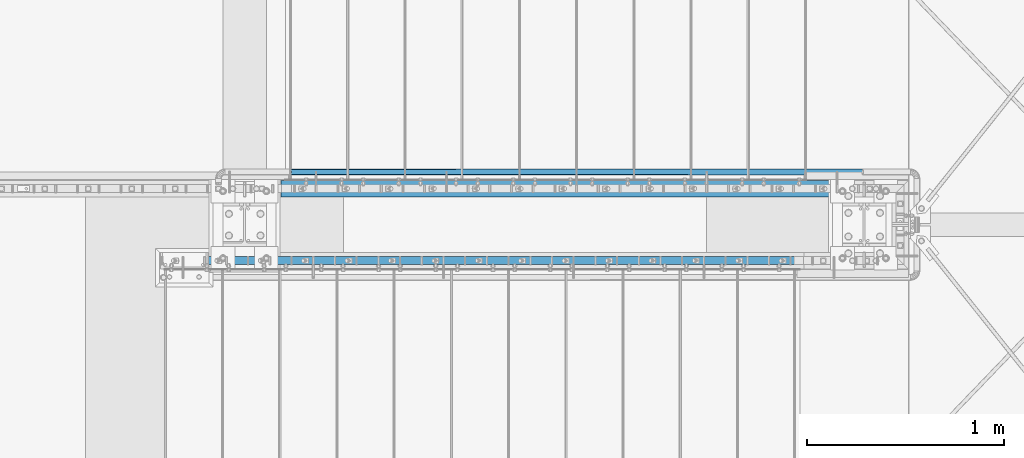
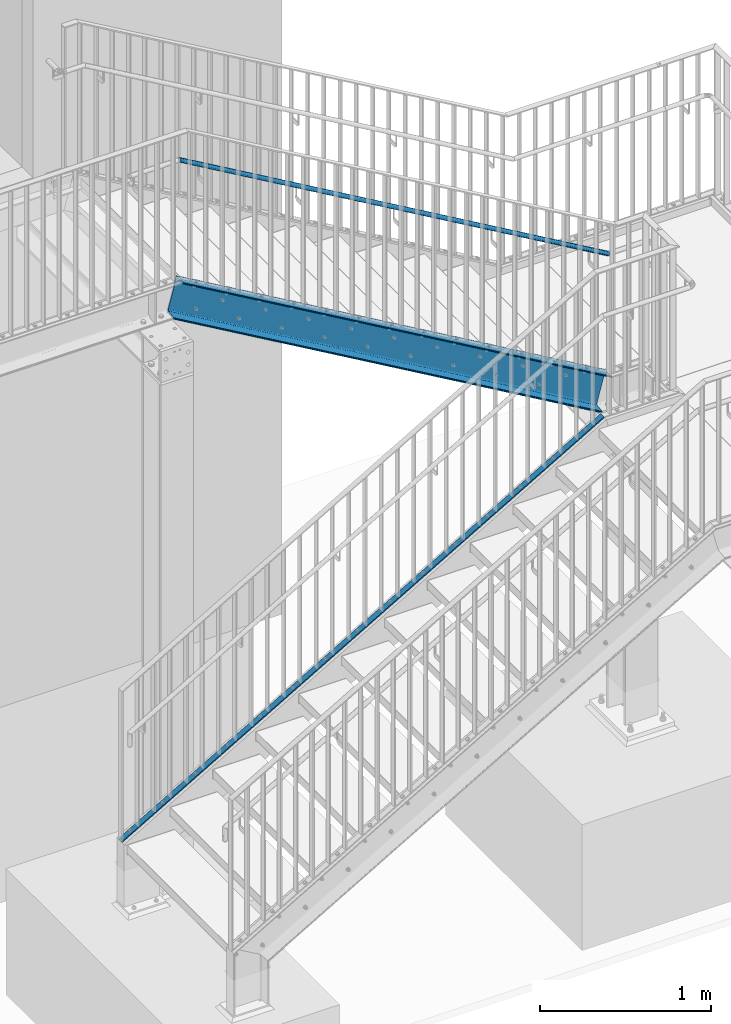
# One storey, part 14 of 145: 3 members, 46 openings.
"""IFC2X3 building model written with IfcOpenShell, lengths in millimetres."""

from ifc_helpers import new_model, entity, si_unit, converted_unit, frame, frame_2d, origin, origin_with_axes, origin_2d, place, context, project, spatial, rectangle, circle, hollow_circle, u_section, extrude, clip, halfspace, material, element, save


model = new_model("IFC2X3")

# Units and contexts
model_context = context("Model", 3, precision=1e-09, world=origin_with_axes())
ifc_project = project(units=[si_unit("LENGTHUNIT", "METRE", prefix="MILLI"), si_unit("AREAUNIT", "SQUARE_METRE"), si_unit("VOLUMEUNIT", "CUBIC_METRE"), converted_unit("PLANEANGLEUNIT", "DEGREE", entity("IfcPlaneAngleMeasure", 0.01745329), si_unit("PLANEANGLEUNIT", "RADIAN"), dimensions=[0, 0, 0, 0, 0, 0, 0])], contexts=[model_context])

# Site, building, storey
site_placement = place(None, origin_with_axes())
site = spatial("IfcSite", under=ifc_project, at=site_placement, Name="BZ1 Grund- und Mittelschule 85716 Unterschlei?heim", CompositionType="ELEMENT")
building_placement = place(site_placement, origin_with_axes())
building = spatial("IfcBuilding", under=site, at=building_placement, Name="Struktur 1", CompositionType="ELEMENT")
storey_placement = place(building_placement, origin_with_axes())
storey = spatial("IfcBuildingStorey", under=building, at=storey_placement, Name="Default Storey", CompositionType="ELEMENT", Elevation=0.0)

# Member, openings
ifc_material_1 = material(Name="S235JR")
member_1_placement = place(None, frame((20277.109208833, -1492.302, 1404.136092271), z_axis=(0.864466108, 0.0, -0.502691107), x_axis=(0.0, -1.0, 0.0)))
member_1 = element("IfcMember", 1, at=member_1_placement, inside=storey, material=ifc_material_1, Name="-", ObjectType="-", context=model_context, shape_type="Clipping", body=[
    clip(clip(extrude(u_section(Depth=240.0, FlangeWidth=85.0, WebThickness=9.5, FlangeThickness=13.0, FilletRadius=13.0, EdgeRadius=6.5, FlangeSlope=4.574, at=frame_2d((20.2, 0.0))), origin(), (0.0, 0.0, -1.0), 3710.756279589), halfspace(frame((-1492.302, 7293.475003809, -1566.270661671), z_axis=(0.0, -0.260320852, 0.965522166), x_axis=(-1.0, 0.0, 0.0)), True)), halfspace(frame((-1492.302, 6450.293706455, 1561.063264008), z_axis=(0.0, 0.260320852, -0.965522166), x_axis=(1.0, 0.0, 0.0)), True)),
])
opening_1_placement = place(member_1_placement, frame((-12.3, 58.965673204, -1972.692381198), z_axis=(1.0, 0.0, 0.0), x_axis=(0.0, 1.0, 0.0)))
element("IfcOpeningElement", 2, at=opening_1_placement, cuts=member_1, ObjectType="Opening", context=model_context, shape_type="SweptSolid", body=[
    extrude(circle(Radius=7.001, at=frame_2d((-6.05212722, -3.519340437), x_axis=(1.0, 0.0))), origin(), (0.0, 0.0, -1.0), 10.5),
])
opening_2_placement = place(member_1_placement, frame((-12.3, 58.965673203, -2979.093895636), z_axis=(1.0, 0.0, 0.0), x_axis=(0.0, 1.0, 0.0)))
element("IfcOpeningElement", 3, at=opening_2_placement, cuts=member_1, ObjectType="Opening", context=model_context, shape_type="SweptSolid", body=[
    extrude(circle(Radius=7.001, at=frame_2d((-6.05212722, -3.519340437), x_axis=(1.0, 0.0))), origin(), (0.0, 0.0, -1.0), 10.5),
])
opening_3_placement = place(member_1_placement, frame((20.2, -106.5, -1139.474690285), z_axis=(0.0, 1.0, 0.0), x_axis=(-1.0, 0.0, 0.0)))
element("IfcOpeningElement", 4, at=opening_3_placement, cuts=member_1, ObjectType="Opening", context=model_context, shape_type="SweptSolid", body=[
    extrude(circle(Radius=7.001, at=frame_2d((0.0, -7.001), x_axis=(1.0, 0.0))), origin(), (0.0, 0.0, -1.0), 14.0),
])
opening_4_placement = place(member_1_placement, frame((20.2, -106.5, -1393.967608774), z_axis=(0.0, 1.0, 0.0), x_axis=(-1.0, 0.0, 0.0)))
element("IfcOpeningElement", 5, at=opening_4_placement, cuts=member_1, ObjectType="Opening", context=model_context, shape_type="SweptSolid", body=[
    extrude(circle(Radius=7.001, at=frame_2d((0.0, -7.001), x_axis=(1.0, 0.0))), origin(), (0.0, 0.0, -1.0), 14.0),
])
opening_5_placement = place(member_1_placement, frame((-12.3, -31.518725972, -2823.489996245), z_axis=(1.0, 0.0, 0.0), x_axis=(0.0, 1.0, 0.0)))
element("IfcOpeningElement", 6, at=opening_5_placement, cuts=member_1, ObjectType="Opening", context=model_context, shape_type="SweptSolid", body=[
    extrude(circle(Radius=7.001, at=frame_2d((-6.05212722, -3.519340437), x_axis=(1.0, 0.0))), origin(), (0.0, 0.0, -1.0), 10.5),
])
opening_6_placement = place(member_1_placement, frame((20.2, -106.5, -2666.429875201), z_axis=(0.0, 1.0, 0.0), x_axis=(-1.0, 0.0, 0.0)))
element("IfcOpeningElement", 7, at=opening_6_placement, cuts=member_1, ObjectType="Opening", context=model_context, shape_type="SweptSolid", body=[
    extrude(circle(Radius=7.001, at=frame_2d((0.0, -7.001), x_axis=(1.0, 0.0))), origin(), (0.0, 0.0, -1.0), 14.0),
])
opening_7_placement = place(member_1_placement, frame((20.2, -106.5, -2411.938119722), z_axis=(0.0, 1.0, 0.0), x_axis=(-1.0, 0.0, 0.0)))
element("IfcOpeningElement", 8, at=opening_7_placement, cuts=member_1, ObjectType="Opening", context=model_context, shape_type="SweptSolid", body=[
    extrude(circle(Radius=7.001, at=frame_2d((0.0, -7.001), x_axis=(1.0, 0.0))), origin(), (0.0, 0.0, -1.0), 14.0),
])
opening_8_placement = place(member_1_placement, frame((20.2, -106.5, -1648.459945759), z_axis=(0.0, 1.0, 0.0), x_axis=(-1.0, 0.0, 0.0)))
element("IfcOpeningElement", 9, at=opening_8_placement, cuts=member_1, ObjectType="Opening", context=model_context, shape_type="SweptSolid", body=[
    extrude(circle(Radius=7.001, at=frame_2d((0.0, -7.001), x_axis=(1.0, 0.0))), origin(), (0.0, 0.0, -1.0), 14.0),
])
opening_9_placement = place(member_1_placement, frame((20.2, -106.5, -375.997097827), z_axis=(0.0, 1.0, 0.0), x_axis=(-1.0, 0.0, 0.0)))
element("IfcOpeningElement", 10, at=opening_9_placement, cuts=member_1, ObjectType="Opening", context=model_context, shape_type="SweptSolid", body=[
    extrude(circle(Radius=7.001, at=frame_2d((0.0, -7.001), x_axis=(1.0, 0.0))), origin(), (0.0, 0.0, -1.0), 14.0),
])
opening_10_placement = place(member_1_placement, frame((-12.3, -31.518725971, -810.686967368), z_axis=(1.0, 0.0, 0.0), x_axis=(0.0, 1.0, 0.0)))
element("IfcOpeningElement", 11, at=opening_10_placement, cuts=member_1, ObjectType="Opening", context=model_context, shape_type="SweptSolid", body=[
    extrude(circle(Radius=7.001, at=frame_2d((-6.05212722, -3.519340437), x_axis=(1.0, 0.0))), origin(), (0.0, 0.0, -1.0), 10.5),
])
opening_11_placement = place(member_1_placement, frame((-12.3, -31.518725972, -2488.022824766), z_axis=(1.0, 0.0, 0.0), x_axis=(0.0, 1.0, 0.0)))
element("IfcOpeningElement", 12, at=opening_11_placement, cuts=member_1, ObjectType="Opening", context=model_context, shape_type="SweptSolid", body=[
    extrude(circle(Radius=7.001, at=frame_2d((-6.05212722, -3.519340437), x_axis=(1.0, 0.0))), origin(), (0.0, 0.0, -1.0), 10.5),
])
opening_12_placement = place(member_1_placement, frame((-12.3, 58.965673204, -630.82369528), z_axis=(1.0, 0.0, 0.0), x_axis=(0.0, 1.0, 0.0)))
element("IfcOpeningElement", 13, at=opening_12_placement, cuts=member_1, ObjectType="Opening", context=model_context, shape_type="SweptSolid", body=[
    extrude(circle(Radius=7.001, at=frame_2d((-6.05212722, -3.519340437), x_axis=(1.0, 0.0))), origin(), (0.0, 0.0, -1.0), 10.5),
])
opening_13_placement = place(member_1_placement, frame((-12.3, 58.965673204, -2643.626724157), z_axis=(1.0, 0.0, 0.0), x_axis=(0.0, 1.0, 0.0)))
element("IfcOpeningElement", 14, at=opening_13_placement, cuts=member_1, ObjectType="Opening", context=model_context, shape_type="SweptSolid", body=[
    extrude(circle(Radius=7.001, at=frame_2d((-6.05212722, -3.519340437), x_axis=(1.0, 0.0))), origin(), (0.0, 0.0, -1.0), 10.5),
])
opening_14_placement = place(member_1_placement, frame((-12.3, -31.518725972, -1481.621310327), z_axis=(1.0, 0.0, 0.0), x_axis=(0.0, 1.0, 0.0)))
element("IfcOpeningElement", 15, at=opening_14_placement, cuts=member_1, ObjectType="Opening", context=model_context, shape_type="SweptSolid", body=[
    extrude(circle(Radius=7.001, at=frame_2d((-6.05212722, -3.519340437), x_axis=(1.0, 0.0))), origin(), (0.0, 0.0, -1.0), 10.5),
])
opening_15_placement = place(member_1_placement, frame((-12.3, 58.965673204, -2308.159552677), z_axis=(1.0, 0.0, 0.0), x_axis=(0.0, 1.0, 0.0)))
element("IfcOpeningElement", 16, at=opening_15_placement, cuts=member_1, ObjectType="Opening", context=model_context, shape_type="SweptSolid", body=[
    extrude(circle(Radius=7.001, at=frame_2d((-6.05212722, -3.519340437), x_axis=(1.0, 0.0))), origin(), (0.0, 0.0, -1.0), 10.5),
])
opening_16_placement = place(member_1_placement, frame((-12.3, -31.518725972, -1146.154138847), z_axis=(1.0, 0.0, 0.0), x_axis=(0.0, 1.0, 0.0)))
element("IfcOpeningElement", 17, at=opening_16_placement, cuts=member_1, ObjectType="Opening", context=model_context, shape_type="SweptSolid", body=[
    extrude(circle(Radius=7.001, at=frame_2d((-6.05212722, -3.519340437), x_axis=(1.0, 0.0))), origin(), (0.0, 0.0, -1.0), 10.5),
])
opening_17_placement = place(member_1_placement, frame((-12.3, -31.518725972, -1817.088481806), z_axis=(1.0, 0.0, 0.0), x_axis=(0.0, 1.0, 0.0)))
element("IfcOpeningElement", 18, at=opening_17_placement, cuts=member_1, ObjectType="Opening", context=model_context, shape_type="SweptSolid", body=[
    extrude(circle(Radius=7.001, at=frame_2d((-6.05212722, -3.519340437), x_axis=(1.0, 0.0))), origin(), (0.0, 0.0, -1.0), 10.5),
])
opening_18_placement = place(member_1_placement, frame((-12.3, 58.965673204, -1301.758038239), z_axis=(1.0, 0.0, 0.0), x_axis=(0.0, 1.0, 0.0)))
element("IfcOpeningElement", 19, at=opening_18_placement, cuts=member_1, ObjectType="Opening", context=model_context, shape_type="SweptSolid", body=[
    extrude(circle(Radius=7.001, at=frame_2d((-6.05212722, -3.519340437), x_axis=(1.0, 0.0))), origin(), (0.0, 0.0, -1.0), 10.5),
])
opening_19_placement = place(member_1_placement, frame((-12.3, -31.518725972, -2152.555653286), z_axis=(1.0, 0.0, 0.0), x_axis=(0.0, 1.0, 0.0)))
element("IfcOpeningElement", 20, at=opening_19_placement, cuts=member_1, ObjectType="Opening", context=model_context, shape_type="SweptSolid", body=[
    extrude(circle(Radius=7.001, at=frame_2d((-6.05212722, -3.519340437), x_axis=(1.0, 0.0))), origin(), (0.0, 0.0, -1.0), 10.5),
])
opening_20_placement = place(member_1_placement, frame((20.2, -106.5, -1902.952864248), z_axis=(0.0, 1.0, 0.0), x_axis=(-1.0, 0.0, 0.0)))
element("IfcOpeningElement", 21, at=opening_20_placement, cuts=member_1, ObjectType="Opening", context=model_context, shape_type="SweptSolid", body=[
    extrude(circle(Radius=7.001, at=frame_2d((0.0, -7.001), x_axis=(1.0, 0.0))), origin(), (0.0, 0.0, -1.0), 14.0),
])
opening_21_placement = place(member_1_placement, frame((20.2, -106.5, -3429.908049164), z_axis=(0.0, 1.0, 0.0), x_axis=(-1.0, 0.0, 0.0)))
element("IfcOpeningElement", 22, at=opening_21_placement, cuts=member_1, ObjectType="Opening", context=model_context, shape_type="SweptSolid", body=[
    extrude(circle(Radius=7.001, at=frame_2d((0.0, -7.001), x_axis=(1.0, 0.0))), origin(), (0.0, 0.0, -1.0), 14.0),
])
opening_22_placement = place(member_1_placement, frame((20.2, -106.5, -2157.445782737), z_axis=(0.0, 1.0, 0.0), x_axis=(-1.0, 0.0, 0.0)))
element("IfcOpeningElement", 23, at=opening_22_placement, cuts=member_1, ObjectType="Opening", context=model_context, shape_type="SweptSolid", body=[
    extrude(circle(Radius=7.001, at=frame_2d((0.0, -7.001), x_axis=(1.0, 0.0))), origin(), (0.0, 0.0, -1.0), 14.0),
])
opening_23_placement = place(member_1_placement, frame((20.2, -106.5, -2920.922212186), z_axis=(0.0, 1.0, 0.0), x_axis=(-1.0, 0.0, 0.0)))
element("IfcOpeningElement", 24, at=opening_23_placement, cuts=member_1, ObjectType="Opening", context=model_context, shape_type="SweptSolid", body=[
    extrude(circle(Radius=7.001, at=frame_2d((0.0, -7.001), x_axis=(1.0, 0.0))), origin(), (0.0, 0.0, -1.0), 14.0),
])
opening_24_placement = place(member_1_placement, frame((20.2, -106.5, -630.490016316), z_axis=(0.0, 1.0, 0.0), x_axis=(-1.0, 0.0, 0.0)))
element("IfcOpeningElement", 25, at=opening_24_placement, cuts=member_1, ObjectType="Opening", context=model_context, shape_type="SweptSolid", body=[
    extrude(circle(Radius=7.001, at=frame_2d((0.0, -7.001), x_axis=(1.0, 0.0))), origin(), (0.0, 0.0, -1.0), 14.0),
])
opening_25_placement = place(member_1_placement, frame((20.2, -106.5, -884.982353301), z_axis=(0.0, 1.0, 0.0), x_axis=(-1.0, 0.0, 0.0)))
element("IfcOpeningElement", 26, at=opening_25_placement, cuts=member_1, ObjectType="Opening", context=model_context, shape_type="SweptSolid", body=[
    extrude(circle(Radius=7.001, at=frame_2d((0.0, -7.001), x_axis=(1.0, 0.0))), origin(), (0.0, 0.0, -1.0), 14.0),
])
opening_26_placement = place(member_1_placement, frame((20.195893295, -106.5, -3175.415130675), z_axis=(0.0, 1.0, 0.0), x_axis=(-1.0, 0.0, 0.0)))
element("IfcOpeningElement", 27, at=opening_26_placement, cuts=member_1, ObjectType="Opening", context=model_context, shape_type="SweptSolid", body=[
    extrude(circle(Radius=7.001, at=frame_2d((0.0, -7.001), x_axis=(1.0, 0.0))), origin(), (0.0, 0.0, -1.0), 14.0),
])
opening_27_placement = place(member_1_placement, frame((-12.3, 58.965673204, -1637.225209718), z_axis=(1.0, 0.0, 0.0), x_axis=(0.0, 1.0, 0.0)))
element("IfcOpeningElement", 28, at=opening_27_placement, cuts=member_1, ObjectType="Opening", context=model_context, shape_type="SweptSolid", body=[
    extrude(circle(Radius=7.001, at=frame_2d((-6.05212722, -3.519340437), x_axis=(1.0, 0.0))), origin(), (0.0, 0.0, -1.0), 10.5),
])
opening_28_placement = place(member_1_placement, frame((-12.3, -31.518725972, -3158.957167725), z_axis=(1.0, 0.0, 0.0), x_axis=(0.0, 1.0, 0.0)))
element("IfcOpeningElement", 29, at=opening_28_placement, cuts=member_1, ObjectType="Opening", context=model_context, shape_type="SweptSolid", body=[
    extrude(circle(Radius=7.001, at=frame_2d((-6.05212722, -3.519340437), x_axis=(1.0, 0.0))), origin(), (0.0, 0.0, -1.0), 10.5),
])
opening_29_placement = place(member_1_placement, frame((-12.3, 58.965673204, -966.290866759), z_axis=(1.0, 0.0, 0.0), x_axis=(0.0, 1.0, 0.0)))
element("IfcOpeningElement", 30, at=opening_29_placement, cuts=member_1, ObjectType="Opening", context=model_context, shape_type="SweptSolid", body=[
    extrude(circle(Radius=7.001, at=frame_2d((-6.05212722, -3.519340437), x_axis=(1.0, 0.0))), origin(), (0.0, 0.0, -1.0), 10.5),
])
opening_30_placement = place(member_1_placement, frame((-12.3, 58.965673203, -3314.561067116), z_axis=(1.0, 0.0, 0.0), x_axis=(0.0, 1.0, 0.0)))
element("IfcOpeningElement", 31, at=opening_30_placement, cuts=member_1, ObjectType="Opening", context=model_context, shape_type="SweptSolid", body=[
    extrude(circle(Radius=7.001, at=frame_2d((-6.05212722, -3.519340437), x_axis=(1.0, 0.0))), origin(), (0.0, 0.0, -1.0), 10.5),
])
opening_31_placement = place(member_1_placement, frame((-12.3, -31.518725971, -475.219795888), z_axis=(1.0, 0.0, 0.0), x_axis=(0.0, 1.0, 0.0)))
element("IfcOpeningElement", 32, at=opening_31_placement, cuts=member_1, ObjectType="Opening", context=model_context, shape_type="SweptSolid", body=[
    extrude(circle(Radius=7.001, at=frame_2d((-6.05212722, -3.519340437), x_axis=(1.0, 0.0))), origin(), (0.0, 0.0, -1.0), 10.5),
])

# Member
ifc_material_2 = material(Name="1.4301")
member_2_placement = place(None, frame((20222.090665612, -1427.502, 2387.591885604), z_axis=(0.864466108, 0.0, -0.502691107), x_axis=(0.0, -1.0, 0.0)))
element("IfcMember", 33, at=member_2_placement, inside=storey, material=ifc_material_2, Name="-", ObjectType="-", context=model_context, shape_type="Clipping", body=[
    clip(clip(extrude(hollow_circle(Radius=15.0, WallThickness=2.0, at=origin_2d()), origin(), (0.0, 0.0, -1.0), 3398.613125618), halfspace(frame((-1427.502, 8157.228438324, -1177.316777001), z_axis=(0.0, -0.260320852, 0.965522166), x_axis=(-1.0, 0.0, 0.0)), True)), halfspace(frame((-1427.502, 7314.047140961, 1950.017148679), z_axis=(0.0, 0.260320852, -0.965522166), x_axis=(1.0, 0.0, 0.0)), True)),
])

# Member, openings
member_3_placement = place(None, frame((16613.187174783, -1877.502, -296.601551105), z_axis=(-0.864466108, 0.0, -0.502691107), x_axis=(-0.502691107, 0.0, 0.864466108)))
member_3 = element("IfcMember", 34, at=member_3_placement, inside=storey, material=ifc_material_1, Name="-", ObjectType="-", context=model_context, shape_type="Clipping", body=[
    clip(clip(extrude(rectangle(XDim=8.0, YDim=40.0, at=origin_2d()), origin(), (0.0, 0.0, -1.0), 3829.105765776), halfspace(frame((-4020.422097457, 1877.502, 6947.747313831), z_axis=(-0.866801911, 0.0, -0.498652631), x_axis=(0.0, 1.0, 0.0)), True)), halfspace(frame((3495.033569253, 1877.502, -4750.299571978), z_axis=(0.260320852, 0.0, 0.965522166), x_axis=(0.0, -1.0, 0.0)), True)),
])
opening_32_placement = place(member_3_placement, frame((-4.5, 0.0, -1635.302197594), z_axis=(-1.0, 0.0, 0.0), x_axis=(0.0, -1.0, 0.0)))
element("IfcOpeningElement", 35, at=opening_32_placement, cuts=member_3, ObjectType="Opening", context=model_context, shape_type="SweptSolid", body=[
    extrude(circle(Radius=7.501, at=frame_2d((0.0, -7.501), x_axis=(1.0, 0.0))), origin(), (0.0, 0.0, -1.0), 9.0),
])
opening_33_placement = place(member_3_placement, frame((-4.5, 0.0, -1889.793953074), z_axis=(-1.0, 0.0, 0.0), x_axis=(0.0, -1.0, 0.0)))
element("IfcOpeningElement", 36, at=opening_33_placement, cuts=member_3, ObjectType="Opening", context=model_context, shape_type="SweptSolid", body=[
    extrude(circle(Radius=7.501, at=frame_2d((0.0, -7.501), x_axis=(1.0, 0.0))), origin(), (0.0, 0.0, -1.0), 9.0),
])
opening_34_placement = place(member_3_placement, frame((-4.5, 0.0, -2398.779790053), z_axis=(-1.0, 0.0, 0.0), x_axis=(0.0, -1.0, 0.0)))
element("IfcOpeningElement", 37, at=opening_34_placement, cuts=member_3, ObjectType="Opening", context=model_context, shape_type="SweptSolid", body=[
    extrude(circle(Radius=7.501, at=frame_2d((0.0, -7.501), x_axis=(1.0, 0.0))), origin(), (0.0, 0.0, -1.0), 9.0),
])
opening_35_placement = place(member_3_placement, frame((-4.5, 0.0, -1126.316942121), z_axis=(-1.0, 0.0, 0.0), x_axis=(0.0, -1.0, 0.0)))
element("IfcOpeningElement", 38, at=opening_35_placement, cuts=member_3, ObjectType="Opening", context=model_context, shape_type="SweptSolid", body=[
    extrude(circle(Radius=7.501, at=frame_2d((0.0, -7.501), x_axis=(1.0, 0.0))), origin(), (0.0, 0.0, -1.0), 9.0),
])
opening_36_placement = place(member_3_placement, frame((-4.5, 0.0, -617.331686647), z_axis=(-1.0, 0.0, 0.0), x_axis=(0.0, -1.0, 0.0)))
element("IfcOpeningElement", 39, at=opening_36_placement, cuts=member_3, ObjectType="Opening", context=model_context, shape_type="SweptSolid", body=[
    extrude(circle(Radius=7.501, at=frame_2d((0.0, -7.501), x_axis=(1.0, 0.0))), origin(), (0.0, 0.0, -1.0), 9.0),
])
opening_37_placement = place(member_3_placement, frame((-4.5, 0.0, -3416.74913799), z_axis=(-1.0, 0.0, 0.0), x_axis=(0.0, -1.0, 0.0)))
element("IfcOpeningElement", 40, at=opening_37_placement, cuts=member_3, ObjectType="Opening", context=model_context, shape_type="SweptSolid", body=[
    extrude(circle(Radius=7.501, at=frame_2d((0.0, -7.501), x_axis=(1.0, 0.0))), origin(), (0.0, 0.0, -1.0), 9.0),
])
opening_38_placement = place(member_3_placement, frame((-4.5, 0.0, -871.824605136), z_axis=(-1.0, 0.0, 0.0), x_axis=(0.0, -1.0, 0.0)))
element("IfcOpeningElement", 41, at=opening_38_placement, cuts=member_3, ObjectType="Opening", context=model_context, shape_type="SweptSolid", body=[
    extrude(circle(Radius=7.501, at=frame_2d((0.0, -7.501), x_axis=(1.0, 0.0))), origin(), (0.0, 0.0, -1.0), 9.0),
])
opening_39_placement = place(member_3_placement, frame((-4.5, 0.0, -2144.286871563), z_axis=(-1.0, 0.0, 0.0), x_axis=(0.0, -1.0, 0.0)))
element("IfcOpeningElement", 42, at=opening_39_placement, cuts=member_3, ObjectType="Opening", context=model_context, shape_type="SweptSolid", body=[
    extrude(circle(Radius=7.501, at=frame_2d((0.0, -7.501), x_axis=(1.0, 0.0))), origin(), (0.0, 0.0, -1.0), 9.0),
])
opening_40_placement = place(member_3_placement, frame((-4.5, 0.0, -3162.256219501), z_axis=(-1.0, 0.0, 0.0), x_axis=(0.0, -1.0, 0.0)))
element("IfcOpeningElement", 43, at=opening_40_placement, cuts=member_3, ObjectType="Opening", context=model_context, shape_type="SweptSolid", body=[
    extrude(circle(Radius=7.501, at=frame_2d((0.0, -7.501), x_axis=(1.0, 0.0))), origin(), (0.0, 0.0, -1.0), 9.0),
])
opening_41_placement = place(member_3_placement, frame((-4.5, 0.0, -2907.763882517), z_axis=(-1.0, 0.0, 0.0), x_axis=(0.0, -1.0, 0.0)))
element("IfcOpeningElement", 44, at=opening_41_placement, cuts=member_3, ObjectType="Opening", context=model_context, shape_type="SweptSolid", body=[
    extrude(circle(Radius=7.501, at=frame_2d((0.0, -7.501), x_axis=(1.0, 0.0))), origin(), (0.0, 0.0, -1.0), 9.0),
])
opening_42_placement = place(member_3_placement, frame((-4.5, 0.0, -2653.272127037), z_axis=(-1.0, 0.0, 0.0), x_axis=(0.0, -1.0, 0.0)))
element("IfcOpeningElement", 45, at=opening_42_placement, cuts=member_3, ObjectType="Opening", context=model_context, shape_type="SweptSolid", body=[
    extrude(circle(Radius=7.501, at=frame_2d((0.0, -7.501), x_axis=(1.0, 0.0))), origin(), (0.0, 0.0, -1.0), 9.0),
])
opening_43_placement = place(member_3_placement, frame((-4.5, 0.0, -3671.24205648), z_axis=(-1.0, 0.0, 0.0), x_axis=(0.0, -1.0, 0.0)))
element("IfcOpeningElement", 46, at=opening_43_placement, cuts=member_3, ObjectType="Opening", context=model_context, shape_type="SweptSolid", body=[
    extrude(circle(Radius=7.501, at=frame_2d((0.0, -7.501), x_axis=(1.0, 0.0))), origin(), (0.0, 0.0, -1.0), 9.0),
])
opening_44_placement = place(member_3_placement, frame((-4.5, 0.0, -108.347012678), z_axis=(-1.0, 0.0, 0.0), x_axis=(0.0, -1.0, 0.0)))
element("IfcOpeningElement", 47, at=opening_44_placement, cuts=member_3, ObjectType="Opening", context=model_context, shape_type="SweptSolid", body=[
    extrude(circle(Radius=7.501, at=frame_2d((0.0, -7.501), x_axis=(1.0, 0.0))), origin(), (0.0, 0.0, -1.0), 9.0),
])
opening_45_placement = place(member_3_placement, frame((-4.5, 0.0, -362.839349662), z_axis=(-1.0, 0.0, 0.0), x_axis=(0.0, -1.0, 0.0)))
element("IfcOpeningElement", 48, at=opening_45_placement, cuts=member_3, ObjectType="Opening", context=model_context, shape_type="SweptSolid", body=[
    extrude(circle(Radius=7.501, at=frame_2d((0.0, -7.501), x_axis=(1.0, 0.0))), origin(), (0.0, 0.0, -1.0), 9.0),
])
opening_46_placement = place(member_3_placement, frame((-4.5, 0.0, -1380.809279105), z_axis=(-1.0, 0.0, 0.0), x_axis=(0.0, -1.0, 0.0)))
element("IfcOpeningElement", 49, at=opening_46_placement, cuts=member_3, ObjectType="Opening", context=model_context, shape_type="SweptSolid", body=[
    extrude(circle(Radius=7.501, at=frame_2d((0.0, -7.501), x_axis=(1.0, 0.0))), origin(), (0.0, 0.0, -1.0), 9.0),
])

save(model, "model.ifc")
